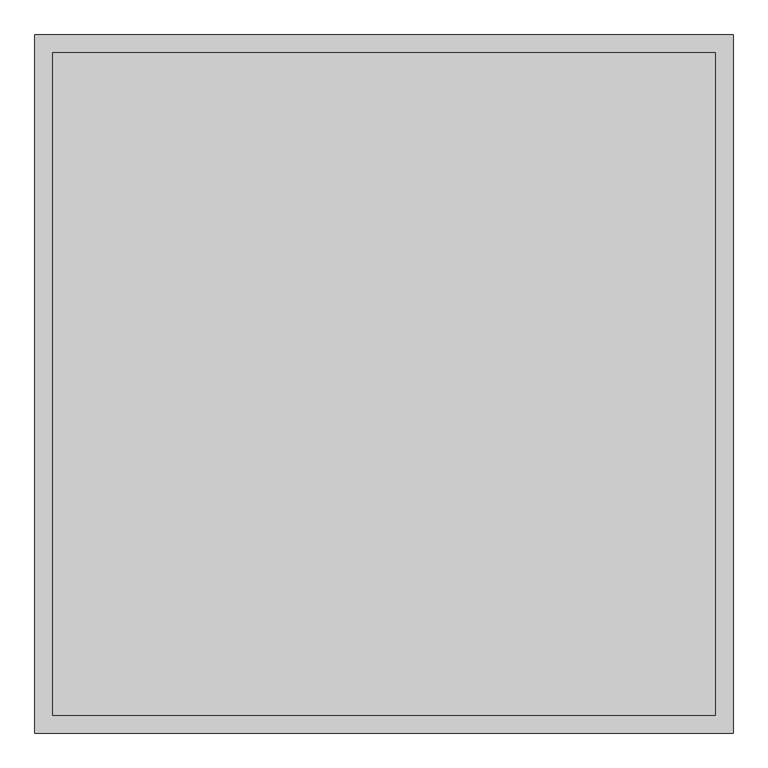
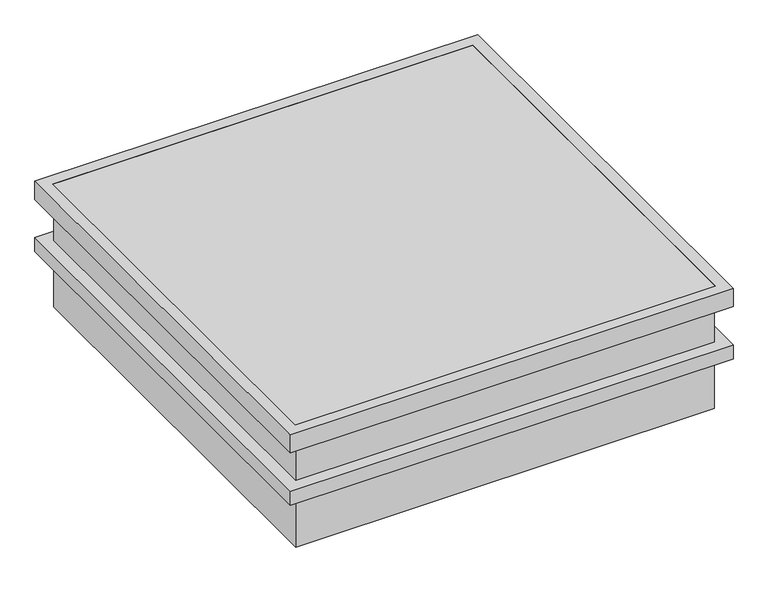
"""IFC4 building model written with IfcOpenShell, lengths in millimetres: proxy geometry, Skydome 4 : Skydome 110x120."""

from ifc_helpers import new_model, si_unit, frame, origin, place, context, project, spatial, polyline, outline, extrude, faceted_brep, source, transform, mapped, element, save


def generic_models_3c72b95f(model_context):
    return source(origin(), model_context, "Body", "SolidModel", [
        faceted_brep([(737.7, 737.7, 370.0), (737.7, 737.7, 433.5), (737.7, -737.7, 433.5), (737.7, -737.7, 370.0), (699.6, 699.6, 433.5), (699.6, 699.6, 408.1), (699.6, -699.6, 408.1), (699.6, -699.6, 433.5), (-737.7, -737.7, 433.5), (-737.7, -737.7, 370.0), (-699.6, -699.6, 408.1), (-699.6, -699.6, 433.5), (-737.7, 737.7, 433.5), (-737.7, 737.7, 370.0), (-699.6, 699.6, 408.1), (-699.6, 699.6, 433.5), (697.7, -697.7, 370.0), (697.7, 697.7, 370.0), (-697.7, 697.7, 370.0), (-697.7, -697.7, 370.0), (697.7, 697.7, 0.0), (697.7, -697.7, 0.0), (-697.7, -697.7, 0.0), (-697.7, 697.7, 0.0), (657.7, 657.7, 0.0), (-657.7, 657.7, 0.0), (-657.7, -657.7, 0.0), (657.7, -657.7, 0.0), (697.7, 697.7, 185.23442), (697.7, -697.7, 185.23442), (697.7, -697.7, 235.23442), (697.7, 697.7, 235.23442), (-697.7, -697.7, 185.23442), (-697.7, -697.7, 235.23442), (-697.7, 697.7, 185.23442), (-697.7, 697.7, 235.23442), (657.7, -657.7, 408.1), (657.7, 657.7, 408.1), (-657.7, -657.7, 408.1), (-657.7, 657.7, 408.1), (737.7, 737.7, 235.23442), (-737.7, 737.7, 235.23442), (-737.7, -737.7, 235.23442), (737.7, -737.7, 235.23442), (737.7, 737.7, 185.23442), (737.7, -737.7, 185.23442), (-737.7, -737.7, 185.23442), (-737.7, 737.7, 185.23442)], [[[0, 1, 2, 3]], [[4, 5, 6, 7]], [[3, 2, 8, 9]], [[7, 6, 10, 11]], [[9, 8, 12, 13]], [[11, 10, 14, 15]], [[2, 1, 12, 8], [4, 7, 11, 15]], [[1, 0, 13, 12]], [[0, 3, 9, 13], [16, 17, 18, 19]], [[5, 4, 15, 14]], [[20, 21, 22, 23], [24, 25, 26, 27]], [[21, 20, 28, 29]], [[16, 30, 31, 17]], [[22, 21, 29, 32]], [[30, 16, 19, 33]], [[23, 22, 32, 34]], [[33, 19, 18, 35]], [[20, 23, 34, 28]], [[35, 18, 17, 31]], [[24, 27, 36, 37]], [[36, 27, 26, 38]], [[38, 26, 25, 39]], [[39, 25, 24, 37]], [[40, 41, 42, 43], [31, 30, 33, 35]], [[44, 45, 46, 47], [29, 28, 34, 32]], [[40, 43, 45, 44]], [[43, 42, 46, 45]], [[42, 41, 47, 46]], [[41, 40, 44, 47]], [[6, 5, 14, 10], [37, 36, 38, 39]]]),
        extrude(outline(polyline([(699.6, 699.6), (699.6, -699.6), (-699.6, -699.6), (-699.6, 699.6), (699.6, 699.6)])), frame((0.0, 0.0, 408.1), z_axis=(0.0, 0.0, 1.0), x_axis=(1.0, 0.0, 0.0)), (0.0, 0.0, 1.0), 25.4),
    ])


if __name__ == "__main__":
    model = new_model("IFC4")
    model_context = context("Model", 3, world=origin())
    ifc_project = project(units=[si_unit("LENGTHUNIT", "METRE", prefix="MILLI")], contexts=[model_context])
    site = spatial("IfcSite", under=ifc_project)
    building = spatial("IfcBuilding", under=site)
    placement = place(None, origin())
    generic_models_shape = generic_models_3c72b95f(model_context)
    element("IfcBuildingElementProxy", 1, Name="Skydome 4 : Skydome 110x120", ObjectType="Skydome 4 : Skydome 110x120", at=placement, inside=building, context=model_context, shape_type="MappedRepresentation", body=[
        mapped(generic_models_shape, transform((0.0, 0.0, 0.0), x_axis=(1.0, 0.0, 0.0), y_axis=(0.0, 1.0, 0.0), z_axis=(0.0, 0.0, 1.0))),
    ])
    save(model, "model.ifc")
